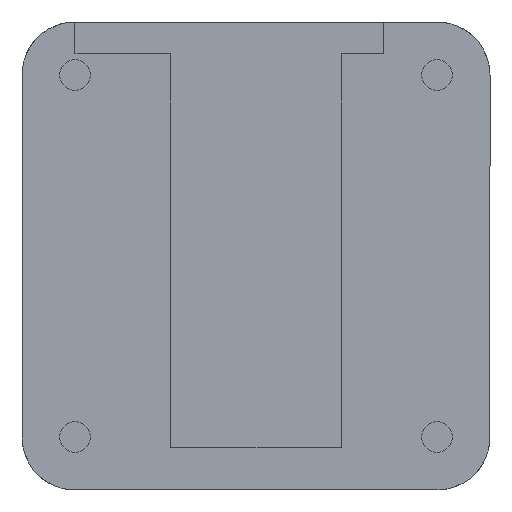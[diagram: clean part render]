
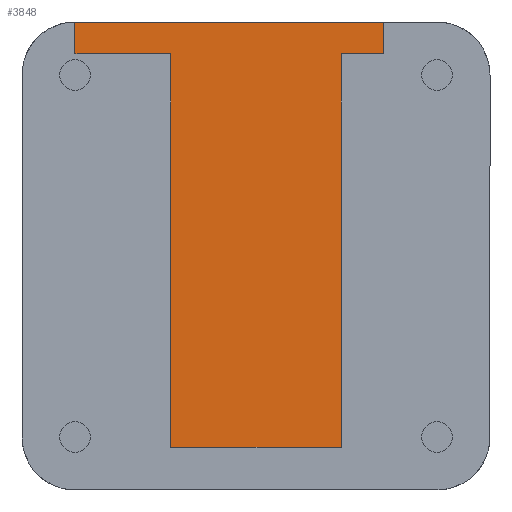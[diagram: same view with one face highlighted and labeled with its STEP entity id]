
A CAD part, front view. The second image highlights one B-rep face of the part: STEP entity #3848.
In plain terms, the highlighted planar face has unit normal (0, -1, 0).
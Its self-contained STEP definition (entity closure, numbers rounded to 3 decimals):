
#131 = CARTESIAN_POINT ( 'NONE',  ( 62.783, -21.249, 0. ) ) ;
#147 = CARTESIAN_POINT ( 'NONE',  ( 87.783, -21.249, -17.976 ) ) ;
#249 = ORIENTED_EDGE ( 'NONE', *, *, #6404, .T. ) ;
#267 = EDGE_CURVE ( 'NONE', #5003, #4572, #2768, .T. ) ;
#332 = DIRECTION ( 'NONE',  ( 1., 0., 0. ) ) ;
#375 = CARTESIAN_POINT ( 'NONE',  ( 62.804, -21.249, 21.976 ) ) ;
#424 = VECTOR ( 'NONE', #1912, 1000. ) ;
#469 = CARTESIAN_POINT ( 'NONE',  ( 87.783, -21.249, 18.976 ) ) ;
#842 = LINE ( 'NONE', #2434, #424 ) ;
#900 = CARTESIAN_POINT ( 'NONE',  ( 62.783, -21.249, 18.976 ) ) ;
#932 = CARTESIAN_POINT ( 'NONE',  ( 0., -21.249, 21.976 ) ) ;
#977 = CARTESIAN_POINT ( 'NONE',  ( 71.783, -21.249, -17.976 ) ) ;
#1124 = DIRECTION ( 'NONE',  ( 0., 0., -1. ) ) ;
#1234 = DIRECTION ( 'NONE',  ( 1., 0., 0. ) ) ;
#1242 = DIRECTION ( 'NONE',  ( 0., 0., -1. ) ) ;
#1245 = VECTOR ( 'NONE', #1124, 1000. ) ;
#1349 = VECTOR ( 'NONE', #2356, 1000. ) ;
#1351 = VERTEX_POINT ( 'NONE', #147 ) ;
#1738 = VERTEX_POINT ( 'NONE', #469 ) ;
#1762 = CARTESIAN_POINT ( 'NONE',  ( 0., -21.249, 0. ) ) ;
#1778 = CARTESIAN_POINT ( 'NONE',  ( 91.783, -21.249, 0. ) ) ;
#1857 = EDGE_LOOP ( 'NONE', ( #6050, #2189, #249, #3771, #4261, #3278, #3544, #2665, #5774 ) ) ;
#1912 = DIRECTION ( 'NONE',  ( 0., 0., -1. ) ) ;
#1917 = VECTOR ( 'NONE', #332, 1000. ) ;
#2066 = LINE ( 'NONE', #5575, #1245 ) ;
#2189 = ORIENTED_EDGE ( 'NONE', *, *, #3592, .T. ) ;
#2356 = DIRECTION ( 'NONE',  ( 1., 0., 0. ) ) ;
#2434 = CARTESIAN_POINT ( 'NONE',  ( 71.783, -21.249, 0. ) ) ;
#2492 = LINE ( 'NONE', #932, #2914 ) ;
#2575 = VECTOR ( 'NONE', #3677, 1000. ) ;
#2622 = EDGE_CURVE ( 'NONE', #1738, #2841, #2742, .T. ) ;
#2665 = ORIENTED_EDGE ( 'NONE', *, *, #3746, .F. ) ;
#2672 = LINE ( 'NONE', #6151, #5077 ) ;
#2742 = LINE ( 'NONE', #3263, #1917 ) ;
#2748 =( BOUNDED_CURVE ( )  B_SPLINE_CURVE ( 3, ( #5842, #4844, #5420, #6448 ),
 .UNSPECIFIED., .F., .F. ) 
 B_SPLINE_CURVE_WITH_KNOTS ( ( 4, 4 ),
 ( 5.498, 5.503 ),
 .UNSPECIFIED. ) 
 CURVE ( )  GEOMETRIC_REPRESENTATION_ITEM ( )  RATIONAL_B_SPLINE_CURVE ( ( 1., 1., 1., 1. ) ) 
 REPRESENTATION_ITEM ( '' )  );
#2768 = LINE ( 'NONE', #131, #6083 ) ;
#2841 = VERTEX_POINT ( 'NONE', #5292 ) ;
#2914 = VECTOR ( 'NONE', #4936, 1000. ) ;
#2936 = EDGE_CURVE ( 'NONE', #4473, #2841, #5715, .T. ) ;
#3025 = EDGE_CURVE ( 'NONE', #4572, #5186, #2672, .T. ) ;
#3162 = EDGE_CURVE ( 'NONE', #5186, #3251, #842, .T. ) ;
#3251 = VERTEX_POINT ( 'NONE', #977 ) ;
#3263 = CARTESIAN_POINT ( 'NONE',  ( 0., -21.249, 18.976 ) ) ;
#3278 = ORIENTED_EDGE ( 'NONE', *, *, #3162, .T. ) ;
#3435 = CARTESIAN_POINT ( 'NONE',  ( 0., -21.249, -17.976 ) ) ;
#3544 = ORIENTED_EDGE ( 'NONE', *, *, #3604, .T. ) ;
#3592 = EDGE_CURVE ( 'NONE', #4473, #4914, #2492, .T. ) ;
#3604 = EDGE_CURVE ( 'NONE', #3251, #1351, #3888, .T. ) ;
#3657 = PLANE ( 'NONE',  #5601 ) ;
#3677 = DIRECTION ( 'NONE',  ( 0., 0., -1. ) ) ;
#3746 = EDGE_CURVE ( 'NONE', #1738, #1351, #2066, .T. ) ;
#3771 = ORIENTED_EDGE ( 'NONE', *, *, #267, .T. ) ;
#3801 = CARTESIAN_POINT ( 'NONE',  ( 71.783, -21.249, 18.976 ) ) ;
#3848 = ADVANCED_FACE ( 'NONE', ( #6225 ), #3657, .T. ) ;
#3888 = LINE ( 'NONE', #3435, #1349 ) ;
#4261 = ORIENTED_EDGE ( 'NONE', *, *, #3025, .T. ) ;
#4473 = VERTEX_POINT ( 'NONE', #6181 ) ;
#4572 = VERTEX_POINT ( 'NONE', #900 ) ;
#4762 = DIRECTION ( 'NONE',  ( 0., -1., 0. ) ) ;
#4844 = CARTESIAN_POINT ( 'NONE',  ( 62.797, -21.249, 21.976 ) ) ;
#4914 = VERTEX_POINT ( 'NONE', #375 ) ;
#4936 = DIRECTION ( 'NONE',  ( -1., 0., 0. ) ) ;
#5003 = VERTEX_POINT ( 'NONE', #5739 ) ;
#5077 = VECTOR ( 'NONE', #1234, 1000. ) ;
#5186 = VERTEX_POINT ( 'NONE', #3801 ) ;
#5292 = CARTESIAN_POINT ( 'NONE',  ( 91.783, -21.249, 18.976 ) ) ;
#5420 = CARTESIAN_POINT ( 'NONE',  ( 62.79, -21.249, 21.976 ) ) ;
#5575 = CARTESIAN_POINT ( 'NONE',  ( 87.783, -21.249, 0. ) ) ;
#5601 = AXIS2_PLACEMENT_3D ( 'NONE', #1762, #4762, #5669 ) ;
#5669 = DIRECTION ( 'NONE',  ( 0., 0., -1. ) ) ;
#5715 = LINE ( 'NONE', #1778, #2575 ) ;
#5739 = CARTESIAN_POINT ( 'NONE',  ( 62.783, -21.249, 21.976 ) ) ;
#5774 = ORIENTED_EDGE ( 'NONE', *, *, #2622, .T. ) ;
#5842 = CARTESIAN_POINT ( 'NONE',  ( 62.804, -21.249, 21.976 ) ) ;
#6050 = ORIENTED_EDGE ( 'NONE', *, *, #2936, .F. ) ;
#6083 = VECTOR ( 'NONE', #1242, 1000. ) ;
#6151 = CARTESIAN_POINT ( 'NONE',  ( 0., -21.249, 18.976 ) ) ;
#6181 = CARTESIAN_POINT ( 'NONE',  ( 91.783, -21.249, 21.976 ) ) ;
#6225 = FACE_OUTER_BOUND ( 'NONE', #1857, .T. ) ;
#6404 = EDGE_CURVE ( 'NONE', #4914, #5003, #2748, .T. ) ;
#6448 = CARTESIAN_POINT ( 'NONE',  ( 62.783, -21.249, 21.976 ) ) ;
